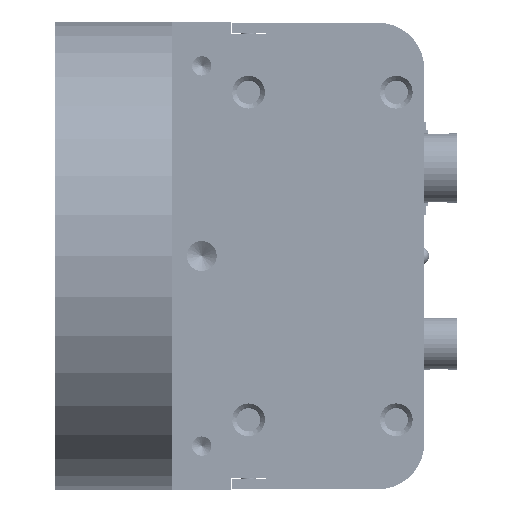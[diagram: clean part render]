
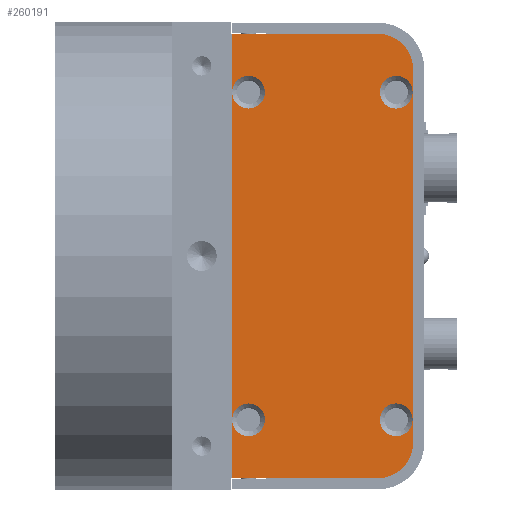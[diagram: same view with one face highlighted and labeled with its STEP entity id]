
A CAD part, front view. The second image highlights one B-rep face of the part: STEP entity #260191.
In plain terms, the highlighted planar face has unit normal (0, -1, 0) as drawn and (0, 1, 0) by its records, which use the part's own axes.
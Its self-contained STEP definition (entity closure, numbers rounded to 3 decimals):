
#12284 = VERTEX_POINT ( 'NONE', #123712 ) ;
#14316 = EDGE_CURVE ( 'NONE', #120471, #236348, #622512, .T. ) ;
#14893 = CARTESIAN_POINT ( 'NONE',  ( 12.625, 1.2, -28. ) ) ;
#26120 = CARTESIAN_POINT ( 'NONE',  ( -12.625, 1.2, -25.2 ) ) ;
#46402 = EDGE_CURVE ( 'NONE', #193410, #193410, #152403, .T. ) ;
#50653 = EDGE_CURVE ( 'NONE', #65499, #488926, #695104, .T. ) ;
#57283 = CARTESIAN_POINT ( 'NONE',  ( -12.625, 1.2, 28. ) ) ;
#65499 = VERTEX_POINT ( 'NONE', #480776 ) ;
#79802 = ORIENTED_EDGE ( 'NONE', *, *, #14316, .T. ) ;
#93442 = VERTEX_POINT ( 'NONE', #481667 ) ;
#105046 = EDGE_CURVE ( 'NONE', #12284, #93442, #689599, .T. ) ;
#110290 = ORIENTED_EDGE ( 'NONE', *, *, #608719, .T. ) ;
#119438 = EDGE_LOOP ( 'NONE', ( #468068 ) ) ;
#120471 = VERTEX_POINT ( 'NONE', #517108 ) ;
#123712 = CARTESIAN_POINT ( 'NONE',  ( -15.525, 1.2, -38. ) ) ;
#129573 = DIRECTION ( 'NONE',  ( 1., 0., 0. ) ) ;
#129985 = ORIENTED_EDGE ( 'NONE', *, *, #105046, .T. ) ;
#152403 = CIRCLE ( 'NONE', #215262, 2.8 ) ;
#153784 = LINE ( 'NONE', #509642, #342356 ) ;
#157278 = CARTESIAN_POINT ( 'NONE',  ( 15.525, 1.2, -38. ) ) ;
#161788 = AXIS2_PLACEMENT_3D ( 'NONE', #557139, #454223, #506776 ) ;
#185351 = DIRECTION ( 'NONE',  ( 0., 1., 0. ) ) ;
#193410 = VERTEX_POINT ( 'NONE', #26120 ) ;
#198203 = DIRECTION ( 'NONE',  ( 0., 1., 0. ) ) ;
#202636 = VECTOR ( 'NONE', #598049, 1000. ) ;
#215262 = AXIS2_PLACEMENT_3D ( 'NONE', #238588, #403528, #348496 ) ;
#219460 = AXIS2_PLACEMENT_3D ( 'NONE', #535794, #700829, #428078 ) ;
#226448 = FACE_OUTER_BOUND ( 'NONE', #586291, .T. ) ;
#236348 = VERTEX_POINT ( 'NONE', #550119 ) ;
#238588 = CARTESIAN_POINT ( 'NONE',  ( -12.625, 1.2, -28. ) ) ;
#240289 = PLANE ( 'NONE',  #680607 ) ;
#259162 = EDGE_LOOP ( 'NONE', ( #486336 ) ) ;
#260191 = ADVANCED_FACE ( 'NONE', ( #312140, #628558, #705394, #406181, #226448 ), #240289, .T. ) ;
#276016 = DIRECTION ( 'NONE',  ( 0., 0., 1. ) ) ;
#286845 = EDGE_CURVE ( 'NONE', #543330, #543330, #545638, .T. ) ;
#312140 = FACE_BOUND ( 'NONE', #259162, .T. ) ;
#312411 = EDGE_LOOP ( 'NONE', ( #342329 ) ) ;
#322083 = DIRECTION ( 'NONE',  ( 0., 0., -1. ) ) ;
#328819 = CARTESIAN_POINT ( 'NONE',  ( 12.625, 1.2, 30.8 ) ) ;
#342329 = ORIENTED_EDGE ( 'NONE', *, *, #46402, .T. ) ;
#342356 = VECTOR ( 'NONE', #129573, 1000. ) ;
#348496 = DIRECTION ( 'NONE',  ( 0., 0., 1. ) ) ;
#380764 = AXIS2_PLACEMENT_3D ( 'NONE', #14893, #452232, #555108 ) ;
#385034 = AXIS2_PLACEMENT_3D ( 'NONE', #408681, #198203, #482450 ) ;
#387529 = VERTEX_POINT ( 'NONE', #328819 ) ;
#396512 = VERTEX_POINT ( 'NONE', #608527 ) ;
#399614 = CARTESIAN_POINT ( 'NONE',  ( -15.525, 1.2, -38. ) ) ;
#403528 = DIRECTION ( 'NONE',  ( 0., -1., 0. ) ) ;
#406181 = FACE_BOUND ( 'NONE', #312411, .T. ) ;
#408681 = CARTESIAN_POINT ( 'NONE',  ( 9.425, 1.2, -31.9 ) ) ;
#428078 = DIRECTION ( 'NONE',  ( 0., 0., 1. ) ) ;
#431002 = ORIENTED_EDGE ( 'NONE', *, *, #615745, .T. ) ;
#452232 = DIRECTION ( 'NONE',  ( 0., -1., 0. ) ) ;
#454223 = DIRECTION ( 'NONE',  ( 0., 1., 0. ) ) ;
#454593 = DIRECTION ( 'NONE',  ( 0., 0., 1. ) ) ;
#464414 = EDGE_CURVE ( 'NONE', #236348, #12284, #647168, .T. ) ;
#468068 = ORIENTED_EDGE ( 'NONE', *, *, #286845, .T. ) ;
#480776 = CARTESIAN_POINT ( 'NONE',  ( 9.425, 1.2, 38. ) ) ;
#481667 = CARTESIAN_POINT ( 'NONE',  ( -15.525, 1.2, 38. ) ) ;
#482450 = DIRECTION ( 'NONE',  ( 0., 0., 1. ) ) ;
#486336 = ORIENTED_EDGE ( 'NONE', *, *, #616857, .T. ) ;
#488926 = VERTEX_POINT ( 'NONE', #548632 ) ;
#506776 = DIRECTION ( 'NONE',  ( 0., 0., 1. ) ) ;
#509642 = CARTESIAN_POINT ( 'NONE',  ( -15.525, 1.2, 38. ) ) ;
#511396 = ORIENTED_EDGE ( 'NONE', *, *, #583576, .T. ) ;
#516962 = ORIENTED_EDGE ( 'NONE', *, *, #464414, .T. ) ;
#517108 = CARTESIAN_POINT ( 'NONE',  ( 15.525, 1.2, -31.9 ) ) ;
#535794 = CARTESIAN_POINT ( 'NONE',  ( 12.625, 1.2, 28. ) ) ;
#542513 = VECTOR ( 'NONE', #322083, 1000. ) ;
#543330 = VERTEX_POINT ( 'NONE', #635347 ) ;
#545638 = CIRCLE ( 'NONE', #380764, 2.8 ) ;
#547423 = DIRECTION ( 'NONE',  ( 0., -1., 0. ) ) ;
#548632 = CARTESIAN_POINT ( 'NONE',  ( 15.525, 1.2, 31.9 ) ) ;
#550119 = CARTESIAN_POINT ( 'NONE',  ( 9.425, 1.2, -38. ) ) ;
#555108 = DIRECTION ( 'NONE',  ( 0., 0., 1. ) ) ;
#557139 = CARTESIAN_POINT ( 'NONE',  ( 9.425, 1.2, 31.9 ) ) ;
#565813 = EDGE_LOOP ( 'NONE', ( #110290 ) ) ;
#579141 = ORIENTED_EDGE ( 'NONE', *, *, #50653, .T. ) ;
#583576 = EDGE_CURVE ( 'NONE', #488926, #120471, #705162, .T. ) ;
#586291 = EDGE_LOOP ( 'NONE', ( #511396, #79802, #516962, #129985, #431002, #579141 ) ) ;
#595725 = CARTESIAN_POINT ( 'NONE',  ( -15.525, 1.2, -38. ) ) ;
#598049 = DIRECTION ( 'NONE',  ( -1., 0., 0. ) ) ;
#608527 = CARTESIAN_POINT ( 'NONE',  ( -12.625, 1.2, 30.8 ) ) ;
#608719 = EDGE_CURVE ( 'NONE', #396512, #396512, #688517, .T. ) ;
#615745 = EDGE_CURVE ( 'NONE', #93442, #65499, #153784, .T. ) ;
#616857 = EDGE_CURVE ( 'NONE', #387529, #387529, #629685, .T. ) ;
#620554 = CARTESIAN_POINT ( 'NONE',  ( 0., 1.2, 0. ) ) ;
#622512 = CIRCLE ( 'NONE', #385034, 6.1 ) ;
#628558 = FACE_BOUND ( 'NONE', #565813, .T. ) ;
#629685 = CIRCLE ( 'NONE', #219460, 2.8 ) ;
#635347 = CARTESIAN_POINT ( 'NONE',  ( 12.625, 1.2, -25.2 ) ) ;
#637208 = AXIS2_PLACEMENT_3D ( 'NONE', #57283, #547423, #707730 ) ;
#646977 = VECTOR ( 'NONE', #454593, 1000. ) ;
#647168 = LINE ( 'NONE', #595725, #202636 ) ;
#680607 = AXIS2_PLACEMENT_3D ( 'NONE', #620554, #185351, #276016 ) ;
#688517 = CIRCLE ( 'NONE', #637208, 2.8 ) ;
#689599 = LINE ( 'NONE', #399614, #646977 ) ;
#695104 = CIRCLE ( 'NONE', #161788, 6.1 ) ;
#700829 = DIRECTION ( 'NONE',  ( 0., -1., 0. ) ) ;
#705162 = LINE ( 'NONE', #157278, #542513 ) ;
#705394 = FACE_BOUND ( 'NONE', #119438, .T. ) ;
#707730 = DIRECTION ( 'NONE',  ( 0., 0., 1. ) ) ;
